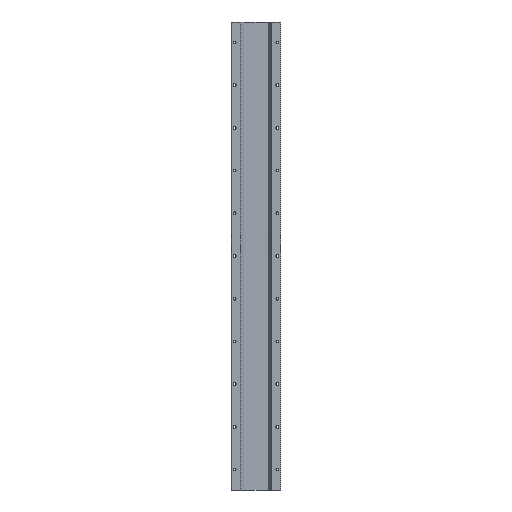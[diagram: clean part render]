
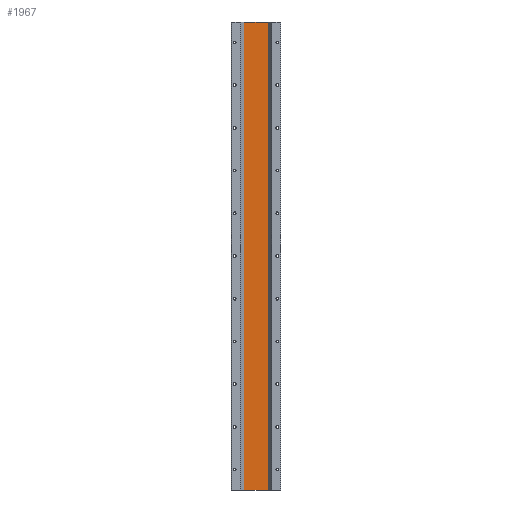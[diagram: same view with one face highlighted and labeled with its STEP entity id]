
A CAD part, front view. The second image highlights one B-rep face of the part: STEP entity #1967.
In plain terms, the highlighted planar face has unit normal (0, -1, 0).
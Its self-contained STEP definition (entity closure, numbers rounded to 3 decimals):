
#1957 = VERTEX_POINT ( 'NONE', #5439 ) ;
#1960 = EDGE_CURVE ( 'NONE', #1961, #1957, #5437, .T. ) ;
#1961 = VERTEX_POINT ( 'NONE', #5433 ) ;
#1967 = ADVANCED_FACE ( 'NONE', ( #5423 ), #5422, .T. ) ;
#2054 = EDGE_LOOP ( 'NONE', ( #2055, #2058, #2061, #2063 ) ) ;
#2055 = ORIENTED_EDGE ( 'NONE', *, *, #2056, .F. ) ;
#2056 = EDGE_CURVE ( 'NONE', #2057, #1957, #6503, .T. ) ;
#2057 = VERTEX_POINT ( 'NONE', #6499 ) ;
#2058 = ORIENTED_EDGE ( 'NONE', *, *, #2059, .F. ) ;
#2059 = EDGE_CURVE ( 'NONE', #2060, #2057, #6498, .T. ) ;
#2060 = VERTEX_POINT ( 'NONE', #6494 ) ;
#2061 = ORIENTED_EDGE ( 'NONE', *, *, #2062, .T. ) ;
#2062 = EDGE_CURVE ( 'NONE', #2060, #1961, #6493, .T. ) ;
#2063 = ORIENTED_EDGE ( 'NONE', *, *, #1960, .T. ) ;
#5418 = DIRECTION ( 'NONE',  ( 0., 0., -1. ) ) ;
#5419 = DIRECTION ( 'NONE',  ( 0., -1., 0. ) ) ;
#5420 = CARTESIAN_POINT ( 'NONE',  ( 28.2, 13.5, -1096. ) ) ;
#5421 = AXIS2_PLACEMENT_3D ( 'NONE', #5420, #5419, #5418 ) ;
#5422 = PLANE ( 'NONE',  #5421 ) ;
#5423 = FACE_OUTER_BOUND ( 'NONE', #2054, .T. ) ;
#5433 = CARTESIAN_POINT ( 'NONE',  ( 28.2, 13.5, -1096. ) ) ;
#5434 = DIRECTION ( 'NONE',  ( 0., 0., 1. ) ) ;
#5435 = VECTOR ( 'NONE', #5434, 1000. ) ;
#5436 = CARTESIAN_POINT ( 'NONE',  ( 28.2, 13.5, -1096. ) ) ;
#5437 = LINE ( 'NONE', #5436, #5435 ) ;
#5439 = CARTESIAN_POINT ( 'NONE',  ( 28.2, 13.5, 0. ) ) ;
#6490 = DIRECTION ( 'NONE',  ( 1., 0., 0. ) ) ;
#6491 = VECTOR ( 'NONE', #6490, 1000. ) ;
#6492 = CARTESIAN_POINT ( 'NONE',  ( 28.2, 13.5, -1096. ) ) ;
#6493 = LINE ( 'NONE', #6492, #6491 ) ;
#6494 = CARTESIAN_POINT ( 'NONE',  ( -28.2, 13.5, -1096. ) ) ;
#6495 = DIRECTION ( 'NONE',  ( 0., 0., 1. ) ) ;
#6496 = VECTOR ( 'NONE', #6495, 1000. ) ;
#6497 = CARTESIAN_POINT ( 'NONE',  ( -28.2, 13.5, -1096. ) ) ;
#6498 = LINE ( 'NONE', #6497, #6496 ) ;
#6499 = CARTESIAN_POINT ( 'NONE',  ( -28.2, 13.5, 0. ) ) ;
#6500 = DIRECTION ( 'NONE',  ( 1., 0., 0. ) ) ;
#6501 = VECTOR ( 'NONE', #6500, 1000. ) ;
#6502 = CARTESIAN_POINT ( 'NONE',  ( 28.2, 13.5, 0. ) ) ;
#6503 = LINE ( 'NONE', #6502, #6501 ) ;
